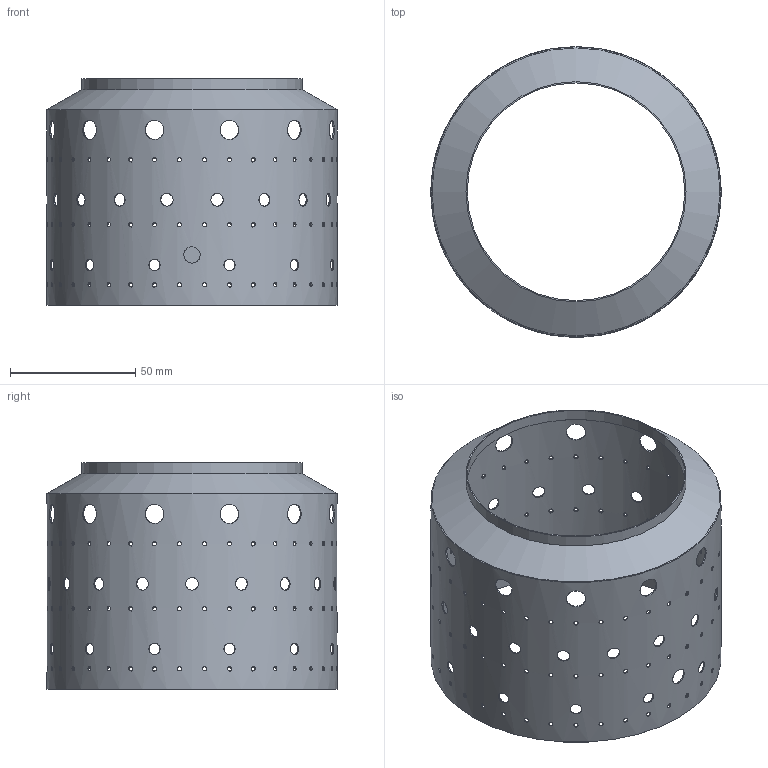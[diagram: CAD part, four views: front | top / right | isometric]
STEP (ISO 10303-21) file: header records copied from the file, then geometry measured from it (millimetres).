
FILE_DESCRIPTION(('Open CASCADE Model'),'2;1');
FILE_NAME('Open CASCADE Shape Model','2026-09-22T22:59:56',('Author'),( 'Open CASCADE'),'Open CASCADE STEP processor 7.9','Open CASCADE 7.9' ,'Unknown');
FILE_SCHEMA(('AUTOMOTIVE_DESIGN { 1 0 10303 214 1 1 1 1 }'));
Length unit declared in the file: millimetre
Products named in the file (1): Open CASCADE STEP translator 7.9 1
Bounding box: 116 x 116 x 90.7 mm (x, y, z)
Volume: 15378.5 mm3; surface area: 67699.9 mm2
Topology: 1 solids, 1 shells, 159 faces, 473 edges, 314 vertices
Faces by surface type: cylinder 155, cone 2, plane 2
Full cylindrical faces by diameter (mm): 1.654 x108, 4.593 x12, 5.077 x18, 6.5 x1, 7.73 x12, 87 x1, 88 x1, 115 x1, 116 x1
Entity records: 78716 total; most frequent: CARTESIAN_POINT 70503, ORIENTED_EDGE 946, PCURVE 946, DEFINITIONAL_REPRESENTATION 946, B_SPLINE_CURVE_WITH_KNOTS 942, DIRECTION 805, EDGE_CURVE 473, LINE 465
